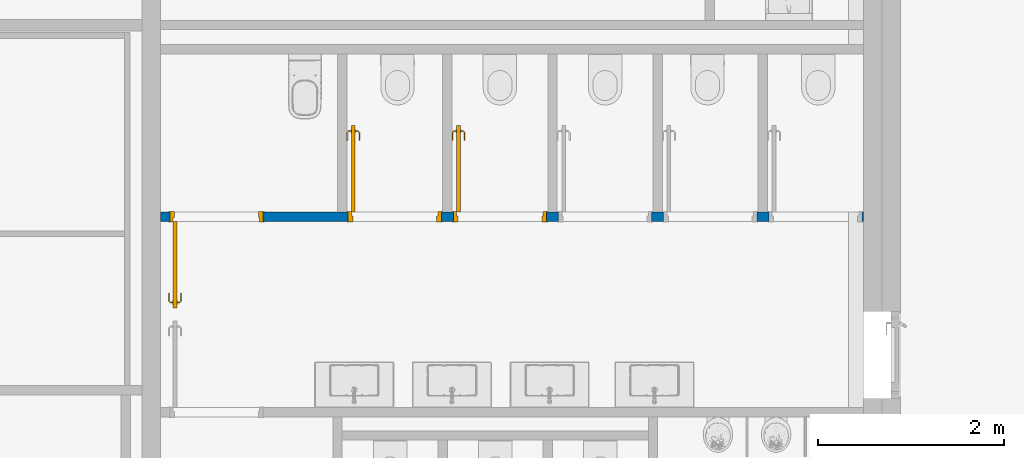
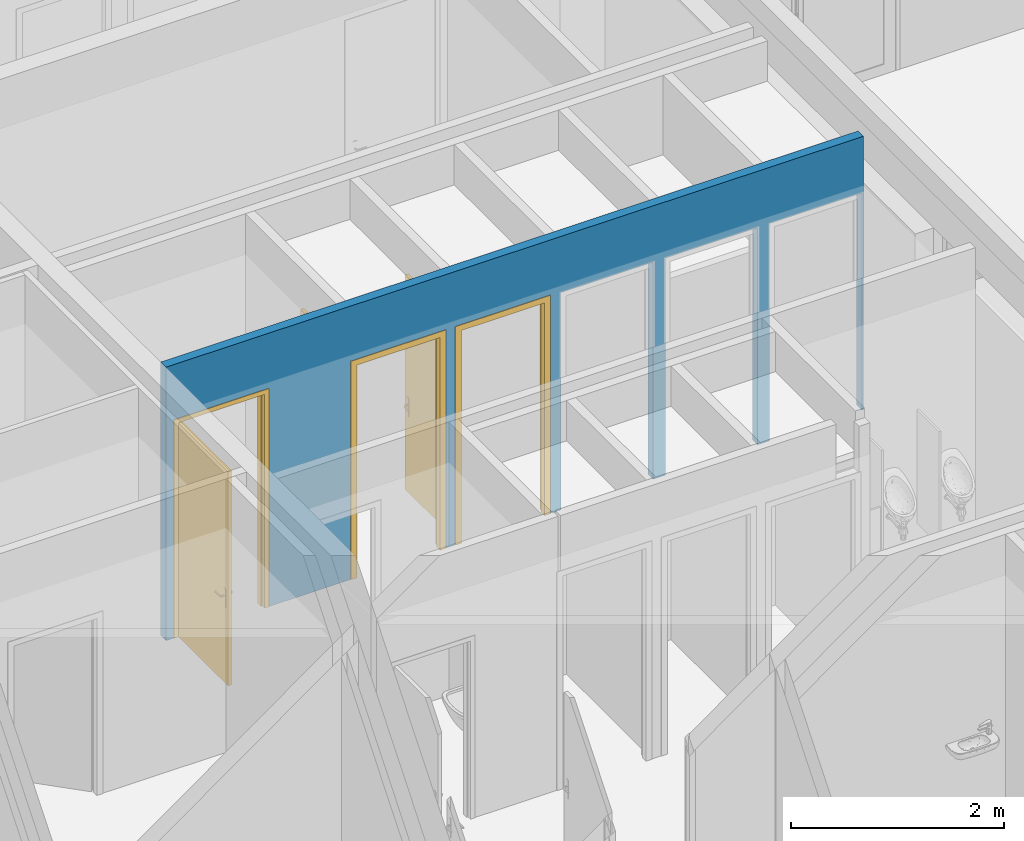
# One storey, part 120 of 240: 3 doors, 1 wall, 6 openings.
"""IFC2X3 building model written with IfcOpenShell, lengths in centimetres."""

import ifcopenshell
import ifcopenshell.guid

model = None  # the IFC model being written
_history = None  # IfcOwnerHistory: only IFC2X3 demands one
_inside = {}  # id of a spatial element -> (the spatial element, [elements in it])
_under = {}  # id of a project, library or spatial element -> (it, [spatial elements below it])
_declared = {}  # id of a project -> (the project, [libraries it declares])
_typed = {}  # id of a type object -> (the type object, [elements of that type])
_made_of = {}  # id of a material, layer set ... -> (it, [elements and type objects made of it])


def new_model(schema):
    """Start an empty IFC model of exactly this schema.

    Asked for "IFC4X3", IfcOpenShell would pick the latest addendum, in which some entities
    have other attributes; the version numbers below select the first issue.
    IFC2X3 requires an IfcOwnerHistory on every rooted entity: one is made here for all.
    """
    global model, _history
    if schema == "IFC4X3":
        model = ifcopenshell.file(schema_version=(4, 3, 0, 0))
    else:
        model = ifcopenshell.file(schema=schema)
    _inside.clear()
    _under.clear()
    _declared.clear()
    _typed.clear()
    _made_of.clear()
    _history = None
    if model.schema == "IFC2X3":
        org = make("IfcOrganization", Name="unknown")
        user = make(
            "IfcPersonAndOrganization",
            ThePerson=make("IfcPerson", FamilyName="unknown"),
            TheOrganization=org,
        )
        app = make(
            "IfcApplication",
            ApplicationDeveloper=org,
            Version="unknown",
            ApplicationFullName="unknown",
            ApplicationIdentifier="unknown",
        )
        _history = make(
            "IfcOwnerHistory",
            OwningUser=user,
            OwningApplication=app,
            ChangeAction="ADDED",
            CreationDate=0,
        )
    return model


def make(cls, **values):
    """One entity of the class cls with the attributes given. An attribute that is None is left unset."""
    return model.create_entity(
        cls, **{name: value for name, value in values.items() if value is not None}
    )


def entity(cls, *values):
    """Any entity or typed value of the class cls, its attributes in the order of the schema. None: left unset."""
    e = model.create_entity(cls)
    for i, value in enumerate(values):
        if value is not None:
            e[i] = value
    return e


def rooted(cls, **values):
    """An entity with a GlobalId (a new one), such as an element, a storey or a relation."""
    return make(cls, GlobalId=ifcopenshell.guid.new(), OwnerHistory=_history, **values)


def si_unit(unit_type, name, prefix=None):
    """IfcSIUnit, for example si_unit("LENGTHUNIT", "METRE", prefix="MILLI")."""
    return make("IfcSIUnit", UnitType=unit_type, Prefix=prefix, Name=name)


def converted_unit(unit_type, name, factor, base, dimensions=None, offset=None):
    """IfcConversionBasedUnit, such as the inch: factor (a typed value) times the base unit."""
    return make(
        "IfcConversionBasedUnit"
        if offset is None
        else "IfcConversionBasedUnitWithOffset",
        ConversionOffset=offset,
        Dimensions=None
        if dimensions is None
        else entity("IfcDimensionalExponents", *dimensions),
        UnitType=unit_type,
        Name=name,
        ConversionFactor=make(
            "IfcMeasureWithUnit", ValueComponent=factor, UnitComponent=base
        ),
    )


def derived_unit(unit_type, elements):
    """IfcDerivedUnit: a product of units, each with its exponent."""
    return make(
        "IfcDerivedUnit",
        Elements=[
            make("IfcDerivedUnitElement", Unit=unit, Exponent=power)
            for unit, power in elements
        ],
        UnitType=unit_type,
    )


def assignment(units):
    """IfcUnitAssignment: the units of a project."""
    return None if units is None else make("IfcUnitAssignment", Units=units)


def point(xyz):
    """IfcCartesianPoint."""
    return None if xyz is None else make("IfcCartesianPoint", Coordinates=xyz)


def direction(xyz):
    """IfcDirection."""
    return None if xyz is None else make("IfcDirection", DirectionRatios=xyz)


def frame(location, z_axis=None, x_axis=None):
    """IfcAxis2Placement3D, a coordinate frame: its origin and axes. An axis left out is left unset."""
    return make(
        "IfcAxis2Placement3D",
        Location=point(location),
        Axis=direction(z_axis),
        RefDirection=direction(x_axis),
    )


def frame_2d(location, x_axis=None):
    """IfcAxis2Placement2D, a coordinate frame in the plane: its origin and x axis."""
    return make(
        "IfcAxis2Placement2D", Location=point(location), RefDirection=direction(x_axis)
    )


def origin():
    """The frame at (0, 0, 0) with its axes left unset."""
    return frame((0.0, 0.0, 0.0))


def place(relative_to, where):
    """IfcLocalPlacement: puts the frame where relative to a parent placement (None: the world)."""
    return make(
        "IfcLocalPlacement", PlacementRelTo=relative_to, RelativePlacement=where
    )


def context(
    kind, dimensions, precision=None, world=None, true_north=None, identifier=None
):
    """IfcGeometricRepresentationContext, for example the 3D "Model" context."""
    return make(
        "IfcGeometricRepresentationContext",
        ContextIdentifier=identifier,
        ContextType=kind,
        CoordinateSpaceDimension=dimensions,
        Precision=precision,
        WorldCoordinateSystem=world,
        TrueNorth=true_north,
    )


def subcontext(parent, identifier, kind, view, scale=None):
    """IfcGeometricRepresentationSubContext, for example "Body" below "Model"."""
    return make(
        "IfcGeometricRepresentationSubContext",
        ContextIdentifier=identifier,
        ContextType=kind,
        ParentContext=parent,
        TargetScale=scale,
        TargetView=view,
    )


def project(units=None, contexts=None):
    """IfcProject with its units and contexts."""
    return rooted(
        "IfcProject",
        Name="project",
        RepresentationContexts=contexts,
        UnitsInContext=assignment(units),
    )


def spatial(cls, under=None, at=None, **own):
    """A site, building, storey or space (cls), placed at a placement, below another one or the project."""
    s = rooted(cls, ObjectPlacement=at, **own)
    if under is not None:
        _under.setdefault(under.id(), (under, []))[1].append(s)
    return s


def profile(cls, at=None, kind="AREA", **sizes):
    """A parametric profile (cls). Its sizes go by their IFC names, for example OverallWidth=200.0."""
    return make(cls, ProfileType=kind, Position=at, **sizes)


def rectangle(**sizes):
    """IfcRectangleProfileDef."""
    return profile("IfcRectangleProfileDef", **sizes)


def extrude(swept, where, along, depth):
    """IfcExtrudedAreaSolid: the profile swept, set in the frame where, extruded along a direction by depth."""
    return make(
        "IfcExtrudedAreaSolid",
        SweptArea=swept,
        Position=where,
        ExtrudedDirection=direction(along),
        Depth=depth,
    )


def faces_of(points, faces, orient=None, outer=None):
    """IfcFace entities. A face is a list of loops; a loop is a list of indices into points, from 0.

    orient and outer hold one flag for each loop. By default every Orientation is true, the
    first loop of a face is its IfcFaceOuterBound and the others are IfcFaceBound.
    """
    made = []
    for i, loops in enumerate(faces):
        bounds = []
        for j, loop in enumerate(loops):
            is_outer = j == 0 if outer is None else outer[i][j]
            bounds.append(
                make(
                    "IfcFaceOuterBound" if is_outer else "IfcFaceBound",
                    Bound=make("IfcPolyLoop", Polygon=[points[k] for k in loop]),
                    Orientation=True if orient is None else orient[i][j],
                )
            )
        made.append(make("IfcFace", Bounds=bounds))
    return made


def faceted_brep(points, faces, orient=None, outer=None, voids=None):
    """IfcFacetedBrep: a solid bounded by flat faces; with voids (closed shells), ...WithVoids."""
    shared = [point(p) for p in points]
    hull = make("IfcClosedShell", CfsFaces=faces_of(shared, faces, orient, outer))
    if voids is None:
        return make("IfcFacetedBrep", Outer=hull)
    return make(
        "IfcFacetedBrepWithVoids",
        Outer=hull,
        Voids=[
            make(cls, CfsFaces=faces_of(shared, fs, o, b)) for cls, fs, o, b in voids
        ],
    )


def shape(context_of_items, identifier, shape_type, items):
    """IfcShapeRepresentation: the items that make up one representation, for example the "Body"."""
    return make(
        "IfcShapeRepresentation",
        ContextOfItems=context_of_items,
        RepresentationIdentifier=identifier,
        RepresentationType=shape_type,
        Items=items,
    )


def source(mapping_origin, context_of_items, identifier, shape_type, items):
    """IfcRepresentationMap: a shape defined once, which mapped items show again and again."""
    return make(
        "IfcRepresentationMap",
        MappingOrigin=mapping_origin,
        MappedRepresentation=shape(context_of_items, identifier, shape_type, items),
    )


def transform(
    local_origin,
    x_axis=None,
    y_axis=None,
    z_axis=None,
    scale=None,
    scale2=None,
    scale3=None,
    uniform=True,
):
    """IfcCartesianTransformationOperator3D, or its non-uniform kind. x_axis, y_axis, z_axis: its Axis1, 2, 3."""
    if uniform:
        return make(
            "IfcCartesianTransformationOperator3D",
            Axis1=direction(x_axis),
            Axis2=direction(y_axis),
            LocalOrigin=point(local_origin),
            Scale=scale,
            Axis3=direction(z_axis),
        )
    return make(
        "IfcCartesianTransformationOperator3DnonUniform",
        Axis1=direction(x_axis),
        Axis2=direction(y_axis),
        LocalOrigin=point(local_origin),
        Scale=scale,
        Axis3=direction(z_axis),
        Scale2=scale2,
        Scale3=scale3,
    )


def mapped(mapping_source, mapping_target):
    """IfcMappedItem: shows the shape of a source again, moved by a transform."""
    return make(
        "IfcMappedItem", MappingSource=mapping_source, MappingTarget=mapping_target
    )


def material(Name=None, Category=None):
    """IfcMaterial."""
    return make("IfcMaterial", Name=Name, Category=Category)


def material_list(materials):
    """IfcMaterialList."""
    return make("IfcMaterialList", Materials=materials)


def layer(
    of_material, thickness, ventilated=None, Name=None, Category=None, Priority=None
):
    """IfcMaterialLayer: one layer of a wall or slab, of a material (None: an air gap)."""
    return make(
        "IfcMaterialLayer",
        Material=of_material,
        LayerThickness=thickness,
        IsVentilated=ventilated,
        Name=Name,
        Category=Category,
        Priority=Priority,
    )


def layer_set(layers, Name=None):
    """IfcMaterialLayerSet."""
    return make("IfcMaterialLayerSet", MaterialLayers=layers, LayerSetName=Name)


def layer_usage(for_layer_set, set_direction, sense, offset, extent=None):
    """IfcMaterialLayerSetUsage: how a layer set lies in its element."""
    return make(
        "IfcMaterialLayerSetUsage",
        ForLayerSet=for_layer_set,
        LayerSetDirection=set_direction,
        DirectionSense=sense,
        OffsetFromReferenceLine=offset,
        ReferenceExtent=extent,
    )


def made_of(thing, what):
    """Note that an element or type object is made of a material, layer set ...; save() writes the relation."""
    if what is not None:
        _made_of.setdefault(what.id(), (what, []))[1].append(thing)
    return thing


def type_object(cls, material=None, **own):
    """A type object (cls), such as IfcWallType, which elements share."""
    return made_of(rooted(cls, **own), material)


def type_shapes(of_type, sources):
    """Give a type object the sources (RepresentationMaps) that its elements show as mapped items."""
    of_type.RepresentationMaps = sources


def element(
    cls,
    number,
    at=None,
    inside=None,
    cuts=None,
    type_object=None,
    material=None,
    context=None,
    identifier="Body",
    shape_type=None,
    held_by="IfcProductDefinitionShape",
    body=None,
    shapes=None,
    **own,
):
    """One element of the class cls, such as IfcWall. Its Tag is "e" and its number.

    at: its placement. inside: the storey or other place that contains it. cuts: it is an
    opening in that element (IfcRelVoidsElement). A single representation is given by context,
    identifier, shape_type and body (its items); several are given by shapes. held_by: the class
    of the entity that holds the representations. save() writes the other relations.
    """
    e = rooted(cls, Tag="e%d" % number, ObjectPlacement=at, **own)
    if body is not None:
        shapes = [shape(context, identifier, shape_type, body)]
    if shapes is not None:
        e.Representation = make(held_by, Representations=shapes)
    if inside is not None:
        _inside.setdefault(inside.id(), (inside, []))[1].append(e)
    if cuts is not None:
        rooted(
            "IfcRelVoidsElement", RelatingBuildingElement=cuts, RelatedOpeningElement=e
        )
    if type_object is not None:
        _typed.setdefault(type_object.id(), (type_object, []))[1].append(e)
    return made_of(e, material)


def fill(opening, filler):
    """IfcRelFillsElement: the door or window that sits in an opening."""
    return rooted(
        "IfcRelFillsElement",
        RelatingOpeningElement=opening,
        RelatedBuildingElement=filler,
    )


def aggregate(whole, parts):
    """IfcRelAggregates: a whole, such as a stair, and the parts it consists of."""
    return rooted("IfcRelAggregates", RelatingObject=whole, RelatedObjects=parts)


def save(model, path):
    """Write the relations noted so far, then the file.

    IfcRelAggregates (storeys below a building ...), IfcRelContainedInSpatialStructure (elements
    in a storey), IfcRelDefinesByType, IfcRelAssociatesMaterial and IfcRelDeclares: one each for
    every whole, place, type object, material and project.
    """
    for whole, parts in _under.values():
        aggregate(whole, parts)
    for where, things in _inside.values():
        rooted(
            "IfcRelContainedInSpatialStructure",
            RelatedElements=things,
            RelatingStructure=where,
        )
    for kind, things in _typed.values():
        rooted("IfcRelDefinesByType", RelatedObjects=things, RelatingType=kind)
    for what, things in _made_of.values():
        rooted("IfcRelAssociatesMaterial", RelatedObjects=things, RelatingMaterial=what)
    for by, libraries in _declared.values():
        rooted("IfcRelDeclares", RelatingContext=by, RelatedDefinitions=libraries)
    model.write(path)


model = new_model("IFC2X3")

# Units and contexts
model_context = context("Model", 3, precision=0.001, world=origin(), true_north=direction((6.12303176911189e-17, 1.0)))
body_context = subcontext(model_context, "Body", "Model", "MODEL_VIEW")
ifc_project = project(units=[si_unit("LENGTHUNIT", "METRE", prefix="CENTI"), si_unit("AREAUNIT", "SQUARE_METRE"), si_unit("VOLUMEUNIT", "CUBIC_METRE"), converted_unit("PLANEANGLEUNIT", "DEGREE", entity("IfcRatioMeasure", 0.0174532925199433), si_unit("PLANEANGLEUNIT", "RADIAN"), dimensions=[0, 0, 0, 0, 0, 0, 0]), si_unit("MASSUNIT", "GRAM", prefix="KILO"), derived_unit("MASSDENSITYUNIT", [(si_unit("MASSUNIT", "GRAM", prefix="KILO"), 1), (si_unit("LENGTHUNIT", "METRE"), -3)]), si_unit("TIMEUNIT", "SECOND"), si_unit("FREQUENCYUNIT", "HERTZ"), si_unit("THERMODYNAMICTEMPERATUREUNIT", "DEGREE_CELSIUS"), derived_unit("THERMALTRANSMITTANCEUNIT", [(si_unit("MASSUNIT", "GRAM", prefix="KILO"), 1), (si_unit("THERMODYNAMICTEMPERATUREUNIT", "KELVIN"), -1), (si_unit("TIMEUNIT", "SECOND"), -3)]), derived_unit("VOLUMETRICFLOWRATEUNIT", [(si_unit("LENGTHUNIT", "METRE"), 3), (si_unit("TIMEUNIT", "SECOND"), -1)]), si_unit("ELECTRICCURRENTUNIT", "AMPERE"), si_unit("ELECTRICVOLTAGEUNIT", "VOLT"), si_unit("POWERUNIT", "WATT"), si_unit("FORCEUNIT", "NEWTON", prefix="KILO"), si_unit("ILLUMINANCEUNIT", "LUX"), si_unit("LUMINOUSFLUXUNIT", "LUMEN"), si_unit("LUMINOUSINTENSITYUNIT", "CANDELA"), derived_unit("USERDEFINED", [(si_unit("MASSUNIT", "GRAM", prefix="KILO"), -1), (si_unit("LENGTHUNIT", "METRE"), -2), (si_unit("TIMEUNIT", "SECOND"), 3), (si_unit("LUMINOUSFLUXUNIT", "LUMEN"), 1)]), derived_unit("LINEARVELOCITYUNIT", [(si_unit("LENGTHUNIT", "METRE"), 1), (si_unit("TIMEUNIT", "SECOND"), -1)]), si_unit("PRESSUREUNIT", "PASCAL"), derived_unit("USERDEFINED", [(si_unit("LENGTHUNIT", "METRE"), -2), (si_unit("MASSUNIT", "GRAM", prefix="KILO"), 1), (si_unit("TIMEUNIT", "SECOND"), -2)])], contexts=[model_context])

# Site, building, storey
site_placement = place(None, frame((-2781.94577612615, 7442.24238424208, 0.0)))
site = spatial("IfcSite", under=ifc_project, at=site_placement, Name="Default", CompositionType="ELEMENT")
building_placement = place(site_placement, origin())
building = spatial("IfcBuilding", under=site, at=building_placement, CompositionType="ELEMENT")
storey_placement = place(building_placement, origin())
storey = spatial("IfcBuildingStorey", under=building, at=storey_placement, Name="N00 - COO", CompositionType="ELEMENT", Elevation=0.0)

# Wall, openings, doors
ifc_material_1 = material(Name="01 - Enduit/Plâtre")
ifc_layer_1 = layer(ifc_material_1, 1.3)
ifc_material_2 = material(Name="Terre cuite")
ifc_layer_2 = layer(ifc_material_2, 7.4)
ifc_layer_3 = layer(ifc_material_1, 1.3)
ifc_layer_set = layer_set([ifc_layer_1, ifc_layer_2, ifc_layer_3], Name="Mur de base:06 - cloisons - Carreau de terre cuite (10cm)")
ifc_layer_usage = layer_usage(ifc_layer_set, "AXIS2", "NEGATIVE", 5.0)
wall_type = type_object("IfcWallType", Name="Mur de base:06 - cloisons - Carreau de terre cuite (10cm)", PredefinedType="STANDARD", material=ifc_layer_set)
wall_placement = place(building_placement, frame((-9677.0, -2410.07903364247, 0.0)))
wall = element("IfcWallStandardCase", 1, at=wall_placement, inside=storey, type_object=wall_type, material=ifc_layer_usage, Name="Mur de base:06 - cloisons - Carreau de terre cuite (10cm)", ObjectType="Mur de base:06 - cloisons - Carreau de terre cuite (10cm)", context=body_context, shape_type="SweptSolid", body=[
    extrude(rectangle(XDim=755.067816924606, YDim=10.0000000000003, at=frame_2d((377.533908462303, 0.0), x_axis=(-1.0, 0.0))), origin(), (0.0, 0.0, 1.0), 313.0),
])
opening_1_placement = place(wall_placement, frame((110.000003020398, 5.0, 0.0)))
opening_1 = element("IfcOpeningElement", 2, at=opening_1_placement, cuts=wall, Name="Int. Simple:PP simple (0.93m x 2.50m):1", ObjectType="Opening", context=body_context, shape_type="SweptSolid", body=[
    extrude(rectangle(XDim=248.500000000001, YDim=99.9999999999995, at=frame_2d((124.250000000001, 49.9999999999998), x_axis=(1.0, 0.0))), frame((0.0, 0.0, 0.0), z_axis=(0.0, -1.0, 0.0), x_axis=(0.0, 0.0, 1.0)), (0.0, 0.0, 1.0), 10.0),
])
opening_2_placement = place(wall_placement, frame((201.533911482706, -5.0, 0.0)))
opening_2 = element("IfcOpeningElement", 3, at=opening_2_placement, cuts=wall, Name="Int. Simple:PP simple (0.93m x 2.50m):1", ObjectType="Opening", context=body_context, shape_type="SweptSolid", body=[
    extrude(rectangle(XDim=248.500000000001, YDim=99.9999999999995, at=frame_2d((124.250000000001, 50.0), x_axis=(1.0, 0.0))), frame((0.0, 0.0, 0.0), z_axis=(0.0, 1.0, 0.0), x_axis=(0.0, 0.0, 1.0)), (0.0, 0.0, 1.0), 10.0),
])
opening_3_placement = place(wall_placement, frame((314.540693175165, -5.0, 0.0)))
opening_3 = element("IfcOpeningElement", 4, at=opening_3_placement, cuts=wall, Name="Int. Simple:PP simple (0.93m x 2.50m):1", ObjectType="Opening", context=body_context, shape_type="SweptSolid", body=[
    extrude(rectangle(XDim=248.500000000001, YDim=99.9999999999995, at=frame_2d((124.250000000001, 50.0), x_axis=(1.0, 0.0))), frame((0.0, 0.0, 0.0), z_axis=(0.0, 1.0, 0.0), x_axis=(0.0, 0.0, 1.0)), (0.0, 0.0, 1.0), 10.0),
])
opening_4_placement = place(wall_placement, frame((540.554256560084, -5.0, 0.0)))
element("IfcOpeningElement", 5, at=opening_4_placement, cuts=wall, Name="Int. Simple:PP simple (0.93m x 2.50m):1", ObjectType="Opening", context=body_context, shape_type="SweptSolid", body=[
    extrude(rectangle(XDim=248.500000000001, YDim=99.9999999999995, at=frame_2d((124.250000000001, 50.0), x_axis=(1.0, 0.0))), frame((0.0, 0.0, 0.0), z_axis=(0.0, 1.0, 0.0), x_axis=(0.0, 0.0, 1.0)), (0.0, 0.0, 1.0), 10.0),
])
opening_5_placement = place(wall_placement, frame((653.567819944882, -5.0, 0.0)))
element("IfcOpeningElement", 6, at=opening_5_placement, cuts=wall, Name="Int. Simple:PP simple (0.93m x 2.50m):1", ObjectType="Opening", context=body_context, shape_type="SweptSolid", body=[
    extrude(rectangle(XDim=248.500000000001, YDim=99.9999999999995, at=frame_2d((124.250000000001, 50.0), x_axis=(1.0, 0.0))), frame((0.0, 0.0, 0.0), z_axis=(0.0, 1.0, 0.0), x_axis=(0.0, 0.0, 1.0)), (0.0, 0.0, 1.0), 10.0),
])
opening_6_placement = place(wall_placement, frame((427.547474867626, -5.0, 0.0)))
element("IfcOpeningElement", 7, at=opening_6_placement, cuts=wall, Name="Int. Simple:PP simple (0.93m x 2.50m):1", ObjectType="Opening", context=body_context, shape_type="SweptSolid", body=[
    extrude(rectangle(XDim=248.500000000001, YDim=99.9999999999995, at=frame_2d((124.250000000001, 50.0), x_axis=(1.0, 0.0))), frame((0.0, 0.0, 0.0), z_axis=(0.0, 1.0, 0.0), x_axis=(0.0, 0.0, 1.0)), (0.0, 0.0, 1.0), 10.0),
])
ifc_material_3 = material(Name="Finition Peinture - Blanc satiné")
ifc_material_4 = material(Name="Bois - Panneau de porte")
ifc_material_5 = material(Name="Bois - Cadre de porte")
ifc_material_list_1 = material_list([ifc_material_3, ifc_material_4, ifc_material_5])
ifc_material_list_2 = material_list([ifc_material_3, ifc_material_4, ifc_material_5])
door_style_1 = type_object("IfcDoorStyle", Name="PP simple (0.93m x 2.50m)", ConstructionType="NOTDEFINED", OperationType="SINGLE_SWING_LEFT", ParameterTakesPrecedence=False, Sizeable=False, material=ifc_material_list_2)
shared_shape_1 = source(origin(), body_context, "Body", "Brep", [
    faceted_brep([(97.0, -85.9647238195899, 86.6003983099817), (97.0, -85.0, 87.0), (97.0, -85.0, 108.0), (97.0, -85.96472381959, 108.399601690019), (97.0, -87.0, 108.535898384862), (97.0, -88.0352761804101, 108.399601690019), (97.0, -89.0, 108.0), (97.0, -89.0, 87.0), (97.0, -88.03527618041, 86.6003983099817), (97.0, -87.0, 86.464101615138), (96.5000000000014, -85.96472381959, 108.399601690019), (96.5000000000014, -85.0, 108.0), (96.5000000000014, -85.0, 87.0), (96.5000000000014, -85.9647238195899, 86.6003983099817), (96.5000000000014, -87.0, 86.464101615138), (96.5000000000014, -88.03527618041, 86.6003983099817), (96.5000000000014, -89.0, 87.0), (96.5000000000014, -89.0, 108.0), (96.5000000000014, -88.0352761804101, 108.399601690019), (96.5000000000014, -87.0, 108.535898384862)], [[[0, 1, 2, 3, 4, 5, 6, 7, 8, 9]], [[10, 11, 12, 13, 14, 15, 16, 17, 18, 19]], [[16, 15, 8, 7]], [[8, 15, 14, 9]], [[14, 13, 0, 9]], [[13, 12, 1, 0]], [[2, 1, 12, 11]], [[11, 10, 3, 2]], [[3, 10, 19, 4]], [[19, 18, 5, 4]], [[18, 17, 6, 5]], [[7, 6, 17, 16]]]),
    faceted_brep([(92.5000000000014, -85.9647238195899, 86.6003983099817), (92.5000000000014, -85.0, 87.0), (92.5000000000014, -85.0, 108.0), (92.5000000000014, -85.96472381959, 108.399601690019), (92.5000000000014, -87.0, 108.535898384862), (92.5000000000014, -88.0352761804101, 108.399601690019), (92.5000000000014, -89.0, 108.0), (92.5000000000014, -89.0, 87.0), (92.5000000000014, -88.03527618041, 86.6003983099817), (92.5000000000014, -87.0, 86.464101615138), (92.0, -85.96472381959, 108.399601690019), (92.0, -85.0, 108.0), (92.0, -85.0, 87.0), (92.0, -85.9647238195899, 86.6003983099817), (92.0, -87.0, 86.464101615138), (92.0, -88.03527618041, 86.6003983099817), (92.0, -89.0, 87.0), (92.0, -89.0, 108.0), (92.0, -88.0352761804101, 108.399601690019), (92.0, -87.0, 108.535898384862)], [[[0, 1, 2, 3, 4, 5, 6, 7, 8, 9]], [[10, 11, 12, 13, 14, 15, 16, 17, 18, 19]], [[11, 10, 3, 2]], [[3, 10, 19, 4]], [[19, 18, 5, 4]], [[18, 17, 6, 5]], [[7, 6, 17, 16]], [[16, 15, 8, 7]], [[8, 15, 14, 9]], [[14, 13, 0, 9]], [[13, 12, 1, 0]], [[2, 1, 12, 11]]]),
    faceted_brep([(97.0, -87.2025298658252, 100.778044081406), (97.0, -86.7974701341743, 100.778044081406), (97.0, -86.3999999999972, 100.699999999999), (97.0, -86.3999999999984, 99.3000000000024), (97.0, -86.7974701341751, 99.2219559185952), (97.0, -87.202529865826, 99.221955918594), (97.0, -87.6000000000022, 99.2999999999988), (97.0, -87.6000000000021, 100.7), (99.7650950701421, -87.6000000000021, 100.7), (99.6004575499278, -87.2025298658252, 100.778044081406), (101.205345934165, -85.5976414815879, 100.778044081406), (100.800286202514, -85.4298602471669, 100.778044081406), (99.4326763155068, -86.7974701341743, 100.778044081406), (99.2680387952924, -86.3999999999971, 100.7), (99.2680387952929, -86.3999999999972, 99.3000000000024), (99.4326763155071, -86.7974701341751, 99.2219559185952), (100.800286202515, -85.4298602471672, 99.2219559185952), (101.205345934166, -85.5976414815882, 99.221955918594), (99.6004575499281, -87.202529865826, 99.221955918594), (99.7650950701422, -87.6000000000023, 99.2999999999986), (101.602816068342, -85.7622790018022, 100.7), (100.402816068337, -85.2652227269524, 100.7), (100.402816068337, -85.2652227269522, 99.3000000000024), (101.602816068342, -85.7622790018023, 99.2999999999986), (101.602816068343, -76.9981359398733, 99.2999999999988), (101.205345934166, -76.9981359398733, 99.221955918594), (100.800286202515, -76.9981359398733, 99.2219559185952), (100.402816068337, -76.9981359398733, 99.3000000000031), (100.402816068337, -76.9981359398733, 100.7), (100.800286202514, -76.9981359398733, 100.778044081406), (101.205345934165, -76.9981359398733, 100.778044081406), (101.602816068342, -76.9981359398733, 100.699999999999), (101.602816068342, -81.7692302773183, 100.7), (101.00281606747, -81.2139980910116, 100.78786867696), (100.402816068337, -81.1316793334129, 100.7), (100.402816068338, -81.1316793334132, 99.3000000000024), (101.002816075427, -81.2139981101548, 99.2121313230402), (101.602816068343, -81.7692299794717, 99.2999999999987)], [[[0, 1, 2, 3, 4, 5, 6, 7]], [[8, 9, 0, 7]], [[9, 10, 11, 12, 1, 0]], [[12, 13, 2, 1]], [[3, 2, 13, 14]], [[14, 15, 4, 3]], [[15, 16, 17, 18, 5, 4]], [[18, 19, 6, 5]], [[7, 6, 19, 8]], [[20, 10, 9, 8]], [[11, 21, 13, 12]], [[14, 13, 21, 22]], [[22, 16, 15, 14]], [[17, 23, 19, 18]], [[8, 19, 23, 20]], [[24, 25, 26, 27, 28, 29, 30, 31]], [[32, 30, 33]], [[31, 30, 32]], [[10, 20, 32]], [[33, 34, 11]], [[21, 11, 34]], [[34, 29, 28]], [[30, 29, 33]], [[29, 34, 33]], [[10, 32, 33]], [[10, 33, 11]], [[22, 21, 34, 28, 27, 35]], [[35, 26, 36]], [[37, 36, 25]], [[22, 35, 16]], [[35, 27, 26]], [[24, 37, 25]], [[23, 17, 37]], [[37, 17, 36]], [[17, 16, 36]], [[16, 35, 36]], [[25, 36, 26]], [[20, 23, 37, 24, 31, 32]]]),
    faceted_brep([(92.0, -87.2025298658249, 100.778044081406), (92.0, -87.6000000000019, 100.7), (92.0, -87.6000000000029, 99.2999999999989), (92.0, -87.2025298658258, 99.221955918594), (92.0, -86.7974701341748, 99.2219559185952), (92.0, -86.399999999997, 99.3000000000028), (92.0, -86.3999999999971, 100.7), (92.0, -86.797470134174, 100.778044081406), (89.7514795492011, -86.399999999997, 99.3000000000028), (89.751479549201, -86.399999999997, 100.7), (89.5868420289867, -86.7974701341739, 100.778044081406), (88.2054812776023, -85.4161093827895, 100.778044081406), (87.8004215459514, -85.5838906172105, 100.778044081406), (89.4190607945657, -87.2025298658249, 100.778044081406), (89.2544232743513, -87.6000000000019, 100.7), (89.2544232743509, -87.6000000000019, 99.2999999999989), (89.4190607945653, -87.2025298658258, 99.221955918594), (87.8004215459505, -85.5838906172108, 99.221955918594), (88.2054812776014, -85.4161093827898, 99.2219559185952), (89.5868420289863, -86.7974701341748, 99.2219559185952), (88.6029514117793, -85.2514718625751, 99.3000000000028), (88.6029514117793, -85.2514718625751, 100.7), (87.4029514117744, -85.7485281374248, 100.7), (87.4029514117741, -85.7485281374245, 99.2999999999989), (88.6029514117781, -76.9954216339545, 99.3000000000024), (88.2054812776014, -76.9954216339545, 99.2219559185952), (87.8004215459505, -76.9954216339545, 99.221955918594), (87.4029514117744, -76.9954216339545, 99.2999999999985), (87.4029514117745, -76.9954216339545, 100.7), (87.8004215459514, -76.9954216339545, 100.778044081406), (88.2054812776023, -76.9954216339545, 100.778044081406), (88.6029514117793, -76.9954216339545, 100.7), (88.6029514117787, -81.1234479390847, 99.3000000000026), (88.6029514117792, -81.1234467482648, 100.7), (88.0029514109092, -81.2057655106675, 100.78786867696), (87.4029514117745, -81.755479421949, 100.7), (87.4029514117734, -81.75547956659, 99.2999999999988), (88.0029514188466, -81.2057654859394, 99.2121313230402)], [[[0, 1, 2, 3, 4, 5, 6, 7]], [[6, 5, 8, 9]], [[9, 10, 7, 6]], [[10, 11, 12, 13, 0, 7]], [[13, 14, 1, 0]], [[2, 1, 14, 15]], [[15, 16, 3, 2]], [[16, 17, 18, 19, 4, 3]], [[19, 8, 5, 4]], [[9, 8, 20, 21]], [[21, 11, 10, 9]], [[12, 22, 14, 13]], [[15, 14, 22, 23]], [[23, 17, 16, 15]], [[18, 20, 8, 19]], [[24, 25, 26, 27, 28, 29, 30, 31]], [[21, 20, 32, 24, 31, 33]], [[33, 30, 34]], [[35, 34, 29]], [[21, 33, 11]], [[33, 31, 30]], [[28, 35, 29]], [[22, 12, 35]], [[35, 12, 34]], [[12, 11, 34]], [[11, 33, 34]], [[29, 34, 30]], [[22, 35, 28, 27, 36, 23]], [[36, 26, 37]], [[27, 26, 36]], [[17, 23, 36]], [[37, 32, 18]], [[20, 18, 32]], [[32, 25, 24]], [[26, 25, 37]], [[25, 32, 37]], [[17, 36, 37]], [[17, 37, 18]]]),
    faceted_brep([(92.5000000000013, -93.0, 245.0), (92.5000000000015, 0.0, 245.0), (92.5000000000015, 0.0, 0.0), (92.5000000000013, -93.0, 0.0), (96.5000000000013, -93.0, 245.0), (96.5000000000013, -93.0, 0.0), (96.5000000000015, 0.0, 0.0), (96.5000000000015, 0.0, 245.0)], [[[0, 1, 2, 3]], [[4, 5, 6, 7]], [[1, 0, 4, 7]], [[2, 1, 7, 6]], [[3, 2, 6, 5]], [[0, 3, 5, 4]]]),
    faceted_brep([(0.0, 10.0, 0.0), (-1.50000000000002, 10.0, 0.0), (-1.50000000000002, 10.5000000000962, 0.0), (5.0, 10.5000000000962, 0.0), (5.0, 4.0, 0.0), (3.50000000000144, 4.0, 0.0), (3.50000000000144, -0.500000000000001, 0.0), (-1.50000000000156, -0.500000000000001, 0.0), (-1.50000000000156, 0.0, 0.0), (0.0, 0.0, 0.0), (0.0, 0.0, 248.500000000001), (0.0, 10.0, 248.500000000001), (100.0, 10.0, 248.500000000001), (100.0, 10.0, 0.0), (101.5, 10.0, 0.0), (101.5, 10.0, 250.0), (-1.50000000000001, 10.0, 250.0), (5.0, 10.5000000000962, 243.5), (5.0, 4.0, 243.5), (95.0, 4.0, 243.5), (95.0, 4.0, 0.0), (96.499999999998, 4.0, 0.0), (96.499999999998, 4.0, 245.0), (3.50000000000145, 4.0, 245.0), (100.0, 0.0, 248.500000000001), (100.0, 0.0, 0.0), (101.500000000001, 0.0, 0.0), (101.500000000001, -0.500000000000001, 0.0), (96.499999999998, -0.500000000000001, 0.0), (95.0, 10.5000000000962, 0.0), (101.5, 10.5000000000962, 0.0), (95.0, 10.5000000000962, 243.5), (3.50000000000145, -0.500000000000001, 245.0), (96.499999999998, -0.500000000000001, 245.0), (101.500000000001, -0.500000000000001, 250.0), (-1.50000000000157, -0.500000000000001, 250.0), (-1.50000000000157, 0.0, 250.0), (101.500000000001, 0.0, 250.0), (-1.50000000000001, 10.5000000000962, 250.0), (101.5, 10.5000000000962, 250.0)], [[[0, 1, 2, 3, 4, 5, 6, 7, 8, 9]], [[0, 9, 10, 11]], [[1, 0, 11, 12, 13, 14, 15, 16]], [[3, 17, 18, 4]], [[5, 4, 18, 19, 20, 21, 22, 23]], [[12, 24, 25, 13]], [[13, 25, 26, 27, 28, 21, 20, 29, 30, 14]], [[19, 31, 29, 20]], [[11, 10, 24, 12]], [[18, 17, 31, 19]], [[5, 23, 32, 6]], [[7, 6, 32, 33, 28, 27, 34, 35]], [[8, 7, 35, 36]], [[9, 8, 36, 37, 26, 25, 24, 10]], [[2, 1, 16, 38]], [[3, 2, 38, 39, 30, 29, 31, 17]], [[33, 22, 21, 28]], [[37, 34, 27, 26]], [[39, 15, 14, 30]], [[32, 23, 22, 33]], [[36, 35, 34, 37]], [[38, 16, 15, 39]]]),
])
type_shapes(door_style_1, [shared_shape_1])
door_1_placement = place(opening_2_placement, frame((100.0, 10.0, 0.0), z_axis=(0.0, 0.0, 1.0), x_axis=(-1.0, 0.0, 0.0)))
door_1 = element("IfcDoor", 8, at=door_1_placement, inside=storey, type_object=door_style_1, material=ifc_material_list_1, Name="Int. Simple:PP simple (0.93m x 2.50m)", ObjectType="Int. Simple:PP simple (0.93m x 2.50m)", OverallHeight=248.500000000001, OverallWidth=99.9999999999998, context=body_context, shape_type="MappedRepresentation", body=[
    mapped(shared_shape_1, transform((0.0, 0.0, 0.0), scale=1.0)),
])
fill(opening_2, door_1)
ifc_material_list_3 = material_list([ifc_material_3, ifc_material_4, ifc_material_5])
door_2_placement = place(opening_3_placement, frame((100.0, 10.0, 0.0), z_axis=(0.0, 0.0, 1.0), x_axis=(-1.0, 0.0, 0.0)))
door_2 = element("IfcDoor", 9, at=door_2_placement, inside=storey, type_object=door_style_1, material=ifc_material_list_3, Name="Int. Simple:PP simple (0.93m x 2.50m)", ObjectType="Int. Simple:PP simple (0.93m x 2.50m)", OverallHeight=248.500000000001, OverallWidth=99.9999999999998, context=body_context, shape_type="MappedRepresentation", body=[
    mapped(shared_shape_1, transform((0.0, 0.0, 0.0), scale=1.0)),
])
fill(opening_3, door_2)
ifc_material_list_4 = material_list([ifc_material_3, ifc_material_4, ifc_material_5])
ifc_material_list_5 = material_list([ifc_material_3, ifc_material_4, ifc_material_5])
door_style_2 = type_object("IfcDoorStyle", Name="PP simple (0.93m x 2.50m)", ConstructionType="NOTDEFINED", OperationType="SINGLE_SWING_RIGHT", ParameterTakesPrecedence=False, Sizeable=False, material=ifc_material_list_5)
shared_shape_2 = source(origin(), body_context, "Body", "Brep", [
    faceted_brep([(10.0, -89.0, 87.0), (10.0, -89.0, 108.0), (10.0, -88.0352761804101, 108.399601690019), (10.0, -87.0, 108.535898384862), (10.0, -85.96472381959, 108.399601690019), (10.0, -85.0, 108.0), (10.0, -85.0, 87.0), (10.0, -85.9647238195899, 86.6003983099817), (10.0, -87.0, 86.464101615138), (10.0, -88.03527618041, 86.6003983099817), (10.500000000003, -89.0, 108.0), (10.500000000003, -89.0, 87.0), (10.500000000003, -88.03527618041, 86.6003983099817), (10.500000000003, -87.0, 86.464101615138), (10.500000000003, -85.9647238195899, 86.6003983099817), (10.500000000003, -85.0, 87.0), (10.500000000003, -85.0, 108.0), (10.500000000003, -85.96472381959, 108.399601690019), (10.500000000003, -87.0, 108.535898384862), (10.500000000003, -88.0352761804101, 108.399601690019)], [[[0, 1, 2, 3, 4, 5, 6, 7, 8, 9]], [[10, 11, 12, 13, 14, 15, 16, 17, 18, 19]], [[9, 12, 11, 0]], [[8, 13, 12, 9]], [[7, 14, 13, 8]], [[7, 6, 15, 14]], [[15, 6, 5, 16]], [[4, 17, 16, 5]], [[3, 18, 17, 4]], [[2, 19, 18, 3]], [[2, 1, 10, 19]], [[11, 10, 1, 0]]]),
    faceted_brep([(14.500000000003, -89.0, 87.0), (14.500000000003, -89.0, 108.0), (14.500000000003, -88.0352761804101, 108.399601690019), (14.500000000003, -87.0, 108.535898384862), (14.500000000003, -85.96472381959, 108.399601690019), (14.500000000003, -85.0, 108.0), (14.500000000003, -85.0, 87.0), (14.500000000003, -85.9647238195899, 86.6003983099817), (14.500000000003, -87.0, 86.464101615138), (14.500000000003, -88.03527618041, 86.6003983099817), (15.0, -87.0, 108.535898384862), (15.0, -88.0352761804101, 108.399601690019), (15.0, -89.0, 108.0), (15.0, -89.0, 87.0), (15.0, -88.03527618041, 86.6003983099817), (15.0, -87.0, 86.464101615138), (15.0, -85.9647238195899, 86.6003983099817), (15.0, -85.0, 87.0), (15.0, -85.0, 108.0), (15.0, -85.96472381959, 108.399601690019)], [[[0, 1, 2, 3, 4, 5, 6, 7, 8, 9]], [[10, 11, 12, 13, 14, 15, 16, 17, 18, 19]], [[4, 19, 18, 5]], [[3, 10, 19, 4]], [[2, 11, 10, 3]], [[2, 1, 12, 11]], [[13, 12, 1, 0]], [[9, 14, 13, 0]], [[8, 15, 14, 9]], [[7, 16, 15, 8]], [[7, 6, 17, 16]], [[17, 6, 5, 18]]]),
    faceted_brep([(10.0, -86.7974701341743, 100.778044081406), (10.0, -87.2025298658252, 100.778044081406), (10.0, -87.6000000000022, 100.699999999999), (10.0, -87.6000000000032, 99.2999999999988), (10.0, -87.202529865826, 99.221955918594), (10.0, -86.7974701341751, 99.2219559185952), (10.0, -86.3999999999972, 99.3000000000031), (10.0, -86.3999999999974, 100.7), (7.39954245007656, -87.2025298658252, 100.778044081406), (7.2349049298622, -87.6000000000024, 100.7), (7.56732368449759, -86.7974701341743, 100.778044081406), (6.19971379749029, -85.4298602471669, 100.778044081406), (5.79465406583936, -85.5976414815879, 100.778044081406), (7.73196120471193, -86.3999999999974, 100.7), (7.731961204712, -86.3999999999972, 99.3000000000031), (7.56732368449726, -86.7974701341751, 99.2219559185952), (7.39954245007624, -87.202529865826, 99.221955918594), (5.79465406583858, -85.5976414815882, 99.221955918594), (6.1997137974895, -85.4298602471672, 99.2219559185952), (7.2349049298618, -87.6000000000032, 99.2999999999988), (5.39718393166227, -85.7622790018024, 100.7), (6.59718393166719, -85.2652227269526, 100.7), (6.59718393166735, -85.2652227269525, 99.3000000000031), (5.39718393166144, -85.7622790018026, 99.2999999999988), (5.39718393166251, -76.9981359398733, 100.7), (5.79465406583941, -76.9981359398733, 100.778044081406), (6.19971379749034, -76.9981359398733, 100.778044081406), (6.59718393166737, -76.9981359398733, 100.699999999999), (6.59718393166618, -76.9981359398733, 99.3000000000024), (6.19971379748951, -76.9981359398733, 99.2219559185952), (5.7946540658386, -76.9981359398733, 99.221955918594), (5.39718393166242, -76.9981359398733, 99.2999999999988), (5.99718393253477, -81.2139980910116, 100.78786867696), (5.39718393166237, -81.7692302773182, 100.7), (6.59718393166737, -81.1316793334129, 100.7), (6.59718393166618, -81.1316793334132, 99.3000000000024), (5.99718392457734, -81.2139981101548, 99.2121313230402), (5.39718393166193, -81.7692310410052, 99.2999999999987)], [[[0, 1, 2, 3, 4, 5, 6, 7]], [[2, 1, 8, 9]], [[1, 0, 10, 11, 12, 8]], [[0, 7, 13, 10]], [[14, 13, 7, 6]], [[5, 15, 14, 6]], [[5, 4, 16, 17, 18, 15]], [[3, 19, 16, 4]], [[9, 19, 3, 2]], [[9, 8, 12, 20]], [[10, 13, 21, 11]], [[22, 21, 13, 14]], [[14, 15, 18, 22]], [[16, 19, 23, 17]], [[20, 23, 19, 9]], [[24, 25, 26, 27, 28, 29, 30, 31]], [[32, 25, 33]], [[33, 25, 24]], [[33, 20, 12]], [[11, 34, 32]], [[34, 11, 21]], [[27, 26, 34]], [[32, 26, 25]], [[32, 34, 26]], [[32, 33, 12]], [[11, 32, 12]], [[21, 22, 35, 28, 27, 34]], [[36, 29, 35]], [[30, 36, 37]], [[18, 35, 22]], [[29, 28, 35]], [[30, 37, 31]], [[37, 17, 23]], [[36, 17, 37]], [[36, 18, 17]], [[36, 35, 18]], [[29, 36, 30]], [[23, 20, 33, 24, 31, 37]]]),
    faceted_brep([(15.0, -86.7974701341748, 99.2219559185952), (15.0, -87.2025298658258, 99.221955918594), (15.0, -87.6000000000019, 99.2999999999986), (15.0, -87.6000000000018, 100.7), (15.0, -87.2025298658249, 100.778044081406), (15.0, -86.797470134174, 100.778044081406), (15.0, -86.3999999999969, 100.7), (15.0, -86.3999999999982, 99.3000000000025), (17.2485204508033, -86.399999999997, 100.7), (17.2485204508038, -86.399999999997, 99.3000000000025), (17.4131579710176, -86.7974701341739, 100.778044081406), (17.5809392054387, -87.2025298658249, 100.778044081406), (19.1995784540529, -85.5838906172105, 100.778044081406), (18.794518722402, -85.4161093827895, 100.778044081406), (17.745576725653, -87.6000000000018, 100.7), (17.7455767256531, -87.6000000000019, 99.2999999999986), (17.5809392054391, -87.2025298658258, 99.221955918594), (17.413157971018, -86.7974701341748, 99.2219559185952), (18.7945187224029, -85.4161093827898, 99.2219559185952), (19.1995784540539, -85.5838906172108, 99.221955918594), (18.397048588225, -85.2514718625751, 100.7), (18.3970485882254, -85.2514718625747, 99.3000000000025), (19.5970485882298, -85.7485281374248, 100.7), (19.59704858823, -85.7485281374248, 99.2999999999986), (18.7945187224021, -76.9954216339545, 100.778044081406), (19.199578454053, -76.9954216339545, 100.778044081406), (19.59704858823, -76.9954216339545, 100.7), (19.597048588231, -76.9954216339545, 99.2999999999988), (19.1995784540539, -76.9954216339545, 99.221955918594), (18.7945187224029, -76.9954216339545, 99.2219559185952), (18.397048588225, -76.9954216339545, 99.3000000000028), (18.3970485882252, -76.9954216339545, 100.7), (18.3970485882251, -81.1234467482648, 100.7), (18.3970485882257, -81.1234479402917, 99.3000000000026), (18.9970485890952, -81.2057655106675, 100.78786867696), (19.5970485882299, -81.7554794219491, 100.7), (19.597048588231, -81.75547956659, 99.2999999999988), (18.9970485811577, -81.2057654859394, 99.2121313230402)], [[[0, 1, 2, 3, 4, 5, 6, 7]], [[8, 9, 7, 6]], [[5, 10, 8, 6]], [[5, 4, 11, 12, 13, 10]], [[3, 14, 11, 4]], [[14, 3, 2, 15]], [[2, 1, 16, 15]], [[1, 0, 17, 18, 19, 16]], [[0, 7, 9, 17]], [[20, 21, 9, 8]], [[8, 10, 13, 20]], [[14, 22, 12, 11]], [[23, 22, 14, 15]], [[15, 16, 19, 23]], [[17, 9, 21, 18]], [[24, 25, 26, 27, 28, 29, 30, 31]], [[21, 20, 32, 31, 30, 33]], [[34, 24, 32]], [[25, 34, 35]], [[13, 32, 20]], [[24, 31, 32]], [[25, 35, 26]], [[35, 12, 22]], [[34, 12, 35]], [[34, 13, 12]], [[34, 32, 13]], [[24, 34, 25]], [[22, 23, 36, 27, 26, 35]], [[37, 28, 36]], [[36, 28, 27]], [[36, 23, 19]], [[18, 33, 37]], [[33, 18, 21]], [[30, 29, 33]], [[37, 29, 28]], [[37, 33, 29]], [[37, 36, 19]], [[18, 37, 19]]]),
    faceted_brep([(14.5000000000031, -93.0, 245.0), (14.5000000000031, -93.0, 0.0), (14.5000000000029, 0.0, 0.0), (14.5000000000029, 0.0, 245.0), (10.5000000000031, -93.0, 245.0), (10.5000000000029, 0.0, 245.0), (10.5000000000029, 0.0, 0.0), (10.5000000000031, -93.0, 0.0)], [[[0, 1, 2, 3]], [[4, 5, 6, 7]], [[3, 5, 4, 0]], [[2, 6, 5, 3]], [[1, 7, 6, 2]], [[0, 4, 7, 1]]]),
    faceted_brep([(107.0, 10.0, 0.0), (107.0, 0.0, 0.0), (108.500000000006, 0.0, 0.0), (108.500000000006, -0.500000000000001, 0.0), (103.500000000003, -0.500000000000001, 0.0), (103.500000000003, 4.0, 0.0), (102.0, 4.0, 0.0), (102.0, 10.5000000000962, 0.0), (108.500000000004, 10.5000000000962, 0.0), (108.500000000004, 10.0, 0.0), (107.0, 10.0, 248.500000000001), (107.0, 0.0, 248.500000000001), (108.500000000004, 10.0, 250.0), (5.50000000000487, 10.0, 250.0), (5.50000000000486, 10.0, 0.0), (7.0, 10.0, 0.0), (7.0, 10.0, 248.500000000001), (102.0, 4.0, 243.5), (102.0, 10.5000000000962, 243.5), (103.500000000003, 4.0, 245.0), (10.5000000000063, 4.0, 245.0), (10.5000000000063, 4.0, 0.0), (12.0, 4.0, 0.0), (12.0, 4.0, 243.5), (7.0, 0.0, 0.0), (7.0, 0.0, 248.500000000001), (5.50000000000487, 10.5000000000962, 0.0), (12.0, 10.5000000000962, 0.0), (10.5000000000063, -0.500000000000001, 0.0), (5.5000000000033, -0.500000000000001, 0.0), (5.5000000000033, 0.0, 0.0), (12.0, 10.5000000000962, 243.5), (103.500000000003, -0.500000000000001, 245.0), (108.500000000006, -0.500000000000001, 250.0), (5.5000000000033, -0.500000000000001, 250.0), (10.5000000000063, -0.500000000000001, 245.0), (108.500000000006, 0.0, 250.0), (5.50000000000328, 0.0, 250.0), (108.500000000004, 10.5000000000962, 250.0), (5.50000000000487, 10.5000000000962, 250.0)], [[[0, 1, 2, 3, 4, 5, 6, 7, 8, 9]], [[0, 10, 11, 1]], [[9, 12, 13, 14, 15, 16, 10, 0]], [[7, 6, 17, 18]], [[5, 19, 20, 21, 22, 23, 17, 6]], [[16, 15, 24, 25]], [[15, 14, 26, 27, 22, 21, 28, 29, 30, 24]], [[23, 22, 27, 31]], [[10, 16, 25, 11]], [[17, 23, 31, 18]], [[5, 4, 32, 19]], [[3, 33, 34, 29, 28, 35, 32, 4]], [[2, 36, 33, 3]], [[1, 11, 25, 24, 30, 37, 36, 2]], [[8, 38, 12, 9]], [[7, 18, 31, 27, 26, 39, 38, 8]], [[35, 28, 21, 20]], [[37, 30, 29, 34]], [[39, 26, 14, 13]], [[32, 35, 20, 19]], [[36, 37, 34, 33]], [[38, 39, 13, 12]]]),
])
type_shapes(door_style_2, [shared_shape_2])
door_3_placement = place(opening_1_placement, frame((-107.000003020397, -10.0, 0.0)))
door_3 = element("IfcDoor", 10, at=door_3_placement, inside=storey, type_object=door_style_2, material=ifc_material_list_4, Name="Int. Simple:PP simple (0.93m x 2.50m)", ObjectType="Int. Simple:PP simple (0.93m x 2.50m)", OverallHeight=248.500000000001, OverallWidth=99.9999999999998, context=body_context, shape_type="MappedRepresentation", body=[
    mapped(shared_shape_2, transform((0.0, 0.0, 0.0), scale=1.0)),
])
fill(opening_1, door_3)

save(model, "model.ifc")
